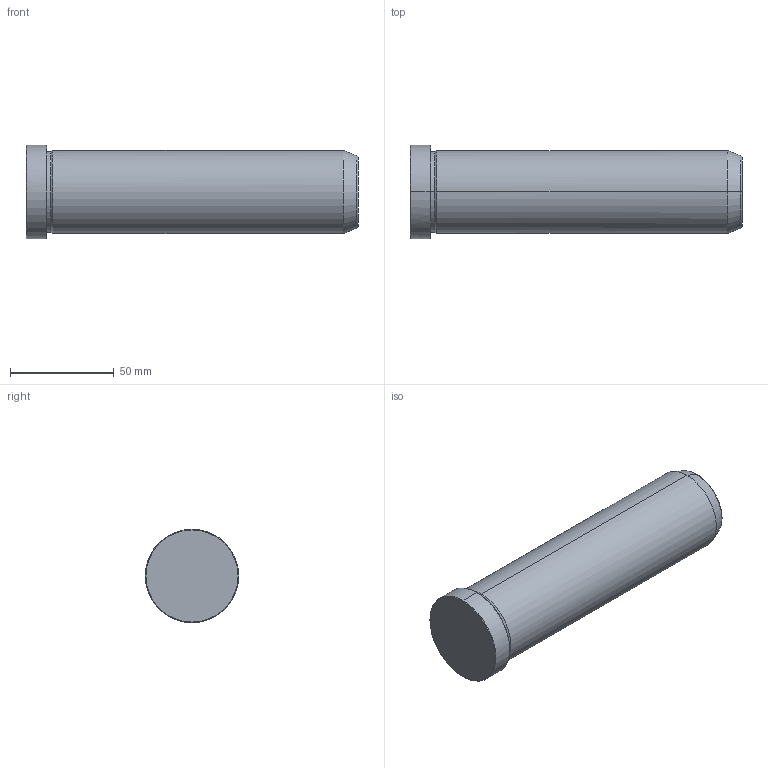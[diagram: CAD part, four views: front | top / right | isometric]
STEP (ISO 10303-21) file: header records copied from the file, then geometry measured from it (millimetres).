
FILE_DESCRIPTION(('CATIA V5 STEP Exchange'),'2;1');
FILE_NAME('C:\Users\Utente\Desktop\IO LAVORO\3D X SITO CF\X SITO\PLASTICA\549\549-40X160.stp','2021-12-18T08:16:17+00:00',('none'),('none'),'CATIA Version 5 Release 20 GA (IN-10)','CATIA V5 STEP AP203','none');
FILE_SCHEMA(('CONFIG_CONTROL_DESIGN'));
Length unit declared in the file: millimetre
Products named in the file (1): 549-40X160
Bounding box: 160 x 45 x 45 mm (x, y, z)
Volume: 203042.2 mm3; surface area: 23119.3 mm2
Topology: 1 solids, 1 shells, 19 faces, 56 edges, 40 vertices
Faces by surface type: cone 8, cylinder 6, plane 3, torus 2
Entity records: 736 total; most frequent: CARTESIAN_POINT 192, ORIENTED_EDGE 112, DIRECTION 86, EDGE_CURVE 56, AXIS2_PLACEMENT_3D 54, VERTEX_POINT 40, CIRCLE 34, EDGE_LOOP 20
